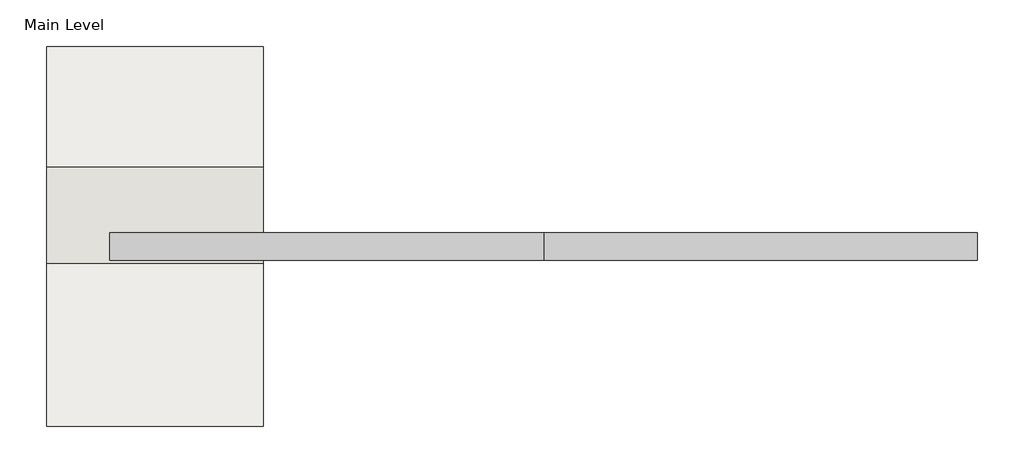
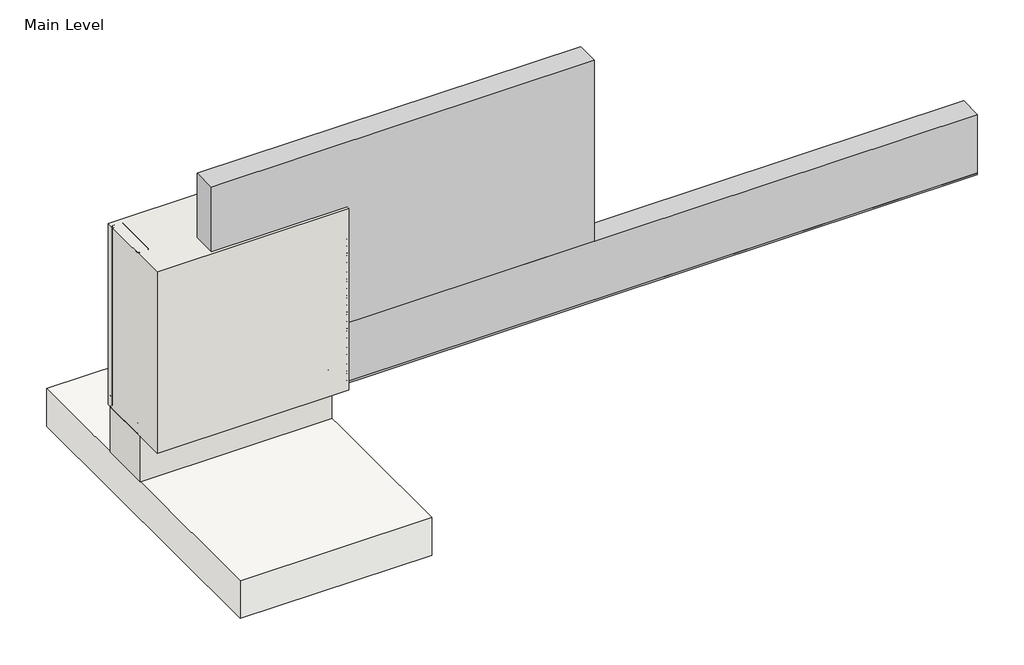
# One storey, incomplete: 14 proxies, 2 walls, 1 slab.
"""IFC4 building model written with IfcOpenShell, lengths in millimetres."""

from ifc_helpers import new_model, si_unit, frame, origin, origin_with_axes, place, context, project, spatial, polyline, outline, extrude, transform, mapped, element, save
from components import generic_models_31547c53, generic_models_0bbfdc8f, generic_models_1e1ad44f, generic_models_7dd17a53, generic_models_441de798, generic_models_9d0e7a2a, generic_models_03ec6e0e, proxy_81afb05a, proxy_e5e434bb, wood_blocking_c9818c35

model = new_model("IFC4")

# Units and contexts
model_context = context("Model", 3, world=origin())
ifc_project = project(units=[si_unit("LENGTHUNIT", "METRE", prefix="MILLI")], contexts=[model_context])

# Site, building, storey
site = spatial("IfcSite", under=ifc_project)
building = spatial("IfcBuilding", under=site)
storey = spatial("IfcBuildingStorey", under=building, Name="Main Level", Elevation=0.0)

# Proxies
placement = place(None, origin())
generic_models_shape = generic_models_31547c53(model_context)
element("IfcBuildingElementProxy", 1, Name="Durabond Generic Model Sealant Vent : Durabond Generic Model Sealant Vent", ObjectType="Durabond Generic Model Sealant Vent : Durabond Generic Model Sealant Vent", at=placement, inside=storey, context=model_context, shape_type="MappedRepresentation", body=[
    mapped(generic_models_shape, transform((26865.4101773, 546.8432813, 8.5594788), x_axis=(1.0, 0.0, 0.0), y_axis=(0.0, 0.08715574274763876, -0.9961946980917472), z_axis=(0.0, 0.9961946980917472, 0.08715574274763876))),
])
generic_models_2_shape = generic_models_0bbfdc8f(model_context)
generic_models_3_shape = generic_models_1e1ad44f(model_context)
generic_models_4_shape = generic_models_7dd17a53(model_context)
generic_models_5_shape = generic_models_441de798(model_context)
element("IfcBuildingElementProxy", 2, Name="CRAi Generic Model Mesh Piece Face Based : CRAi Generic Model Mesh Piece Face Based", ObjectType="CRAi Generic Model Mesh Piece Face Based : CRAi Generic Model Mesh Piece Face Based", at=placement, inside=storey, context=model_context, shape_type="MappedRepresentation", body=[
    mapped(generic_models_2_shape, transform((26933.6726773, 541.9066297, 261.6963215), x_axis=(-1.0, 0.0, 0.0), y_axis=(0.0, 0.0, -1.0), z_axis=(0.0, -1.0, 0.0))),
    mapped(generic_models_3_shape, transform((26933.6726773, 541.9066297, 261.6963215), x_axis=(-1.0, 0.0, 0.0), y_axis=(0.0, 0.0, -1.0), z_axis=(0.0, -1.0, 0.0))),
    mapped(generic_models_4_shape, transform((26933.6726773, 541.9066297, 261.6963215), x_axis=(-1.0, 0.0, 0.0), y_axis=(0.0, 0.0, -1.0), z_axis=(0.0, -1.0, 0.0))),
    mapped(generic_models_5_shape, transform((26933.6726773, 541.9066297, 261.6963215), x_axis=(-1.0, 0.0, 0.0), y_axis=(0.0, 0.0, -1.0), z_axis=(0.0, -1.0, 0.0))),
])
generic_models_6_shape = generic_models_9d0e7a2a(model_context)
element("IfcBuildingElementProxy", 3, Name="CRAi Generic Model Metal Stud Array : CRAi Generic Model Metal Stud Array", ObjectType="CRAi Generic Model Metal Stud Array : CRAi Generic Model Metal Stud Array", at=placement, inside=storey, context=model_context, shape_type="MappedRepresentation", body=[
    mapped(generic_models_6_shape, transform((26692.3726773, 719.7066297, 6.35), x_axis=(-1.0, 0.0, 0.0), y_axis=(0.0, -1.0, 0.0), z_axis=(0.0, 0.0, 1.0))),
])
generic_models_7_shape = generic_models_03ec6e0e(model_context)
element("IfcBuildingElementProxy", 4, Name="CRAi Generic Model Drywall Screw : CRAi Generic Model Drywall Screw", ObjectType="CRAi Generic Model Drywall Screw : CRAi Generic Model Drywall Screw", at=placement, inside=storey, context=model_context, shape_type="MappedRepresentation", body=[
    mapped(generic_models_7_shape, transform((26508.2226773, 627.6316297, 25.4), x_axis=(1.0, 0.0, 0.0), y_axis=(0.0, 0.0, 1.0), z_axis=(0.0, -1.0, 0.0))),
])
element("IfcBuildingElementProxy", 5, Name="CRAi Generic Model Drywall Screw : CRAi Generic Model Drywall Screw", ObjectType="CRAi Generic Model Drywall Screw : CRAi Generic Model Drywall Screw", at=placement, inside=storey, context=model_context, shape_type="MappedRepresentation", body=[
    mapped(generic_models_7_shape, transform((26508.2226773, 627.6316297, 215.9), x_axis=(1.0, 0.0, 0.0), y_axis=(0.0, 0.0, 1.0), z_axis=(0.0, -1.0, 0.0))),
])
element("IfcBuildingElementProxy", 6, Name="CRAi Generic Model Drywall Screw : CRAi Generic Model Drywall Screw", ObjectType="CRAi Generic Model Drywall Screw : CRAi Generic Model Drywall Screw", at=placement, inside=storey, context=model_context, shape_type="MappedRepresentation", body=[
    mapped(generic_models_7_shape, transform((26508.2226773, 627.6316297, 406.4), x_axis=(1.0, 0.0, 0.0), y_axis=(0.0, 0.0, 1.0), z_axis=(0.0, -1.0, 0.0))),
])
element("IfcBuildingElementProxy", 7, Name="CRAi Generic Model Drywall Screw : CRAi Generic Model Drywall Screw", ObjectType="CRAi Generic Model Drywall Screw : CRAi Generic Model Drywall Screw", at=placement, inside=storey, context=model_context, shape_type="MappedRepresentation", body=[
    mapped(generic_models_7_shape, transform((26508.2226773, 627.6316297, 596.9), x_axis=(1.0, 0.0, 0.0), y_axis=(0.0, 0.0, 1.0), z_axis=(0.0, -1.0, 0.0))),
])
element("IfcBuildingElementProxy", 8, Name="CRAi Generic Model Drywall Screw : CRAi Generic Model Drywall Screw", ObjectType="CRAi Generic Model Drywall Screw : CRAi Generic Model Drywall Screw", at=placement, inside=storey, context=model_context, shape_type="MappedRepresentation", body=[
    mapped(generic_models_7_shape, transform((26876.5226773, 627.6316297, 25.4), x_axis=(1.0, 0.0, 0.0), y_axis=(0.0, 0.0, 1.0), z_axis=(0.0, -1.0, 0.0))),
])
element("IfcBuildingElementProxy", 9, Name="CRAi Generic Model Drywall Screw : CRAi Generic Model Drywall Screw", ObjectType="CRAi Generic Model Drywall Screw : CRAi Generic Model Drywall Screw", at=placement, inside=storey, context=model_context, shape_type="MappedRepresentation", body=[
    mapped(generic_models_7_shape, transform((26876.5226773, 627.6316297, 215.9), x_axis=(1.0, 0.0, 0.0), y_axis=(0.0, 0.0, 1.0), z_axis=(0.0, -1.0, 0.0))),
])
element("IfcBuildingElementProxy", 10, Name="CRAi Generic Model Drywall Screw : CRAi Generic Model Drywall Screw", ObjectType="CRAi Generic Model Drywall Screw : CRAi Generic Model Drywall Screw", at=placement, inside=storey, context=model_context, shape_type="MappedRepresentation", body=[
    mapped(generic_models_7_shape, transform((26876.5226773, 627.6316297, 406.4), x_axis=(1.0, 0.0, 0.0), y_axis=(0.0, 0.0, 1.0), z_axis=(0.0, -1.0, 0.0))),
])
element("IfcBuildingElementProxy", 11, Name="CRAi Generic Model Drywall Screw : CRAi Generic Model Drywall Screw", ObjectType="CRAi Generic Model Drywall Screw : CRAi Generic Model Drywall Screw", at=placement, inside=storey, context=model_context, shape_type="MappedRepresentation", body=[
    mapped(generic_models_7_shape, transform((26876.5226773, 627.6316297, 596.9), x_axis=(1.0, 0.0, 0.0), y_axis=(0.0, 0.0, 1.0), z_axis=(0.0, -1.0, 0.0))),
])
proxy_shape = proxy_81afb05a(model_context)
element("IfcBuildingElementProxy", 12, Name="Durabond Generic Model Equalite Insulation Board : 3\"", ObjectType="Durabond Generic Model Equalite Insulation Board : 3\"", at=placement, inside=storey, context=model_context, shape_type="MappedRepresentation", body=[
    mapped(proxy_shape, transform((27276.5726773, 624.4566297, 523.392643), x_axis=(1.0, 0.0, 0.0), y_axis=(0.0, 0.0, 1.0), z_axis=(0.0, -1.0, 0.0))),
])
proxy_2_shape = proxy_e5e434bb(model_context)
element("IfcBuildingElementProxy", 13, Name="Durabond Generic Model Equalite Vent Board : 3\"", ObjectType="Durabond Generic Model Equalite Vent Board : 3\"", at=placement, inside=storey, context=model_context, shape_type="MappedRepresentation", body=[
    mapped(proxy_2_shape, transform((27886.1726773, 624.4566297, 116.992643), x_axis=(1.0, 0.0, 0.0), y_axis=(0.0, 0.0, 1.0), z_axis=(0.0, -1.0, 0.0))),
])
wood_blocking_shape = wood_blocking_c9818c35(model_context)
element("IfcBuildingElementProxy", 14, Name="CRAi Generic Model Line Based Metal Framing Track : Wood Blocking", ObjectType="CRAi Generic Model Line Based Metal Framing Track : Wood Blocking", at=placement, inside=storey, context=model_context, shape_type="MappedRepresentation", body=[
    mapped(wood_blocking_shape, transform((26489.1726773, 643.5066297, 0.0), x_axis=(1.0, 0.0, 0.0), y_axis=(0.0, 1.0, 0.0), z_axis=(0.0, 0.0, 1.0))),
])

# Slab
element("IfcSlab", 15, ObjectType="CRAi Concrete Floor - 5\"", at=placement, inside=storey, context=model_context, shape_type="SweptSolid", body=[
    extrude(outline(polyline([(27098.7726773, 81.5316297), (26489.1726773, 81.5316297), (26489.1726773, 1148.3316297), (27098.7726773, 1148.3316297), (27098.7726773, 81.5316297)])), frame((0.0, 0.0, -279.4), z_axis=(0.0, 0.0, 1.0), x_axis=(1.0, 0.0, 0.0)), (0.0, 0.0, 1.0), 127.0),
])

# Walls
element("IfcWall", 16, ObjectType="189mm (7.5”) EIFS Field Applied on Mtl. Stud Layer - 50mm Grooved Insulation Board Metal Stud Wall(AirStop) 2", at=placement, inside=storey, context=model_context, shape_type="SweptSolid", body=[
    extrude(outline(polyline([(27098.7726773, 538.7316297), (26489.1726773, 538.7316297), (26489.1726773, 808.6066297), (27098.7726773, 808.6066297), (27098.7726773, 538.7316297)])), origin_with_axes(), (0.0, 0.0, 1.0), 609.6),
])
element("IfcWall", 17, ObjectType="Durabond 6\" Concrete Wall", at=placement, inside=storey, context=model_context, shape_type="SweptSolid", body=[
    extrude(outline(polyline([(27098.7726773, 630.8066297), (26489.1726773, 630.8066297), (26489.1726773, 795.9066297), (27098.7726773, 795.9066297), (27098.7726773, 630.8066297)])), frame((0.0, 0.0, -152.4), z_axis=(0.0, 0.0, 1.0), x_axis=(1.0, 0.0, 0.0)), (0.0, 0.0, 1.0), 152.4),
])

save(model, "model.ifc")
